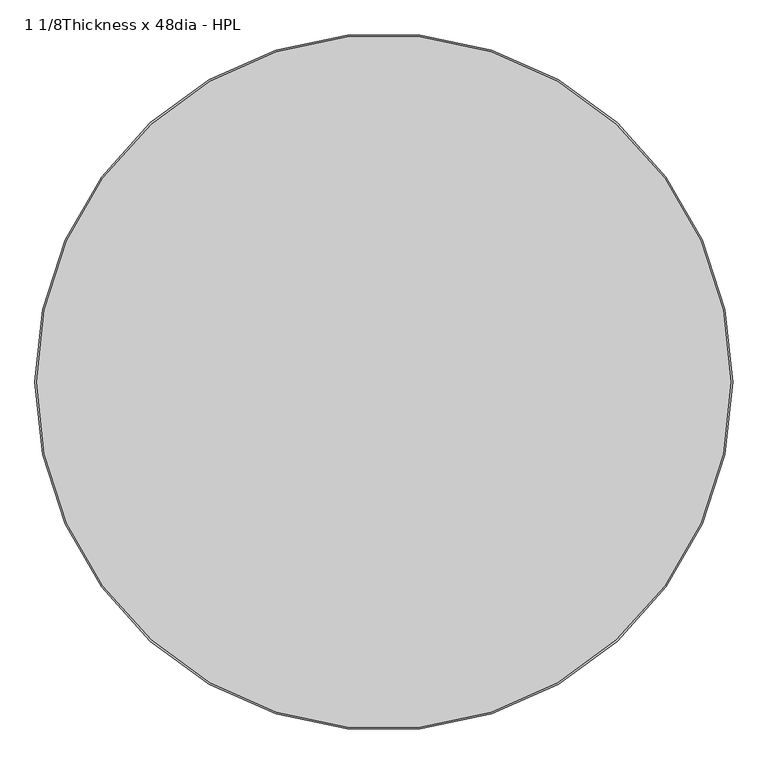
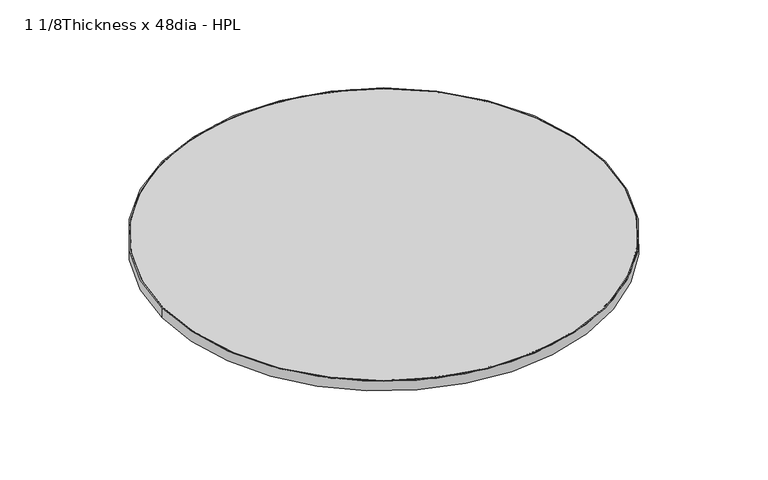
"""IFC4 building model written with IfcOpenShell, lengths in millimetres: furniture geometry, Steelcase - Groupwork - Table - Top - Round : 1 1/8Thickness x 48dia - HPL."""

from ifc_helpers import new_model, si_unit, point, frame, origin, origin_2d, place, context, project, spatial, circle_curve, trimmed, segment, composite_curve, outline, extrude, source, transform, mapped, element, save


def furniture_1_1_8thickness_x_48dia_hpl_ef60ed02(model_context):
    return source(origin(), model_context, "Body", "SweptSolid", [
        extrude(outline(composite_curve([segment(trimmed(circle_curve(origin_2d(), 612.648), [point((-612.648, 0.0))], [point((612.648, 0.0))], False, "CARTESIAN"), True, "CONTINUOUS"), segment(trimmed(circle_curve(origin_2d(), 612.648), [point((612.648, 0.0))], [point((-612.648, 0.0))], False, "CARTESIAN"), True, "CONTINUOUS")], self_intersect=False), holes=[composite_curve([segment(trimmed(circle_curve(origin_2d(), 609.6), [point((609.6, 0.0))], [point((-609.6, 0.0))], True, "CARTESIAN"), True, "CONTINUOUS"), segment(trimmed(circle_curve(origin_2d(), 609.6), [point((-609.6, 0.0))], [point((609.6, 0.0))], True, "CARTESIAN"), True, "CONTINUOUS")], self_intersect=False)]), frame((0.0, 0.0, 695.579), z_axis=(0.0, 0.0, 1.0), x_axis=(1.0, 0.0, 0.0)), (0.0, 0.0, 1.0), 28.702),
        extrude(outline(composite_curve([segment(trimmed(circle_curve(origin_2d(), 609.6), [point((-609.6, 0.0))], [point((609.6, 0.0))], False, "CARTESIAN"), True, "CONTINUOUS"), segment(trimmed(circle_curve(origin_2d(), 609.6), [point((609.6, 0.0))], [point((-609.6, 0.0))], False, "CARTESIAN"), True, "CONTINUOUS")], self_intersect=False)), frame((0.0, 0.0, 695.579), z_axis=(0.0, 0.0, 1.0), x_axis=(1.0, 0.0, 0.0)), (0.0, 0.0, 1.0), 28.702),
    ])


if __name__ == "__main__":
    model = new_model("IFC4")
    model_context = context("Model", 3, world=origin())
    ifc_project = project(units=[si_unit("LENGTHUNIT", "METRE", prefix="MILLI")], contexts=[model_context])
    site = spatial("IfcSite", under=ifc_project)
    building = spatial("IfcBuilding", under=site)
    placement = place(None, origin())
    furniture_1_1_8thickness_x_48dia_hpl_shape = furniture_1_1_8thickness_x_48dia_hpl_ef60ed02(model_context)
    element("IfcFurniture", 1, ObjectType="Steelcase - Groupwork - Table - Top - Round : 1 1/8Thickness x 48dia - HPL", at=placement, inside=building, context=model_context, shape_type="MappedRepresentation", body=[
        mapped(furniture_1_1_8thickness_x_48dia_hpl_shape, transform((0.0, 0.0, 0.0), x_axis=(1.0, 0.0, 0.0), y_axis=(0.0, 1.0, 0.0), z_axis=(0.0, 0.0, 1.0))),
    ])
    save(model, "model.ifc")
